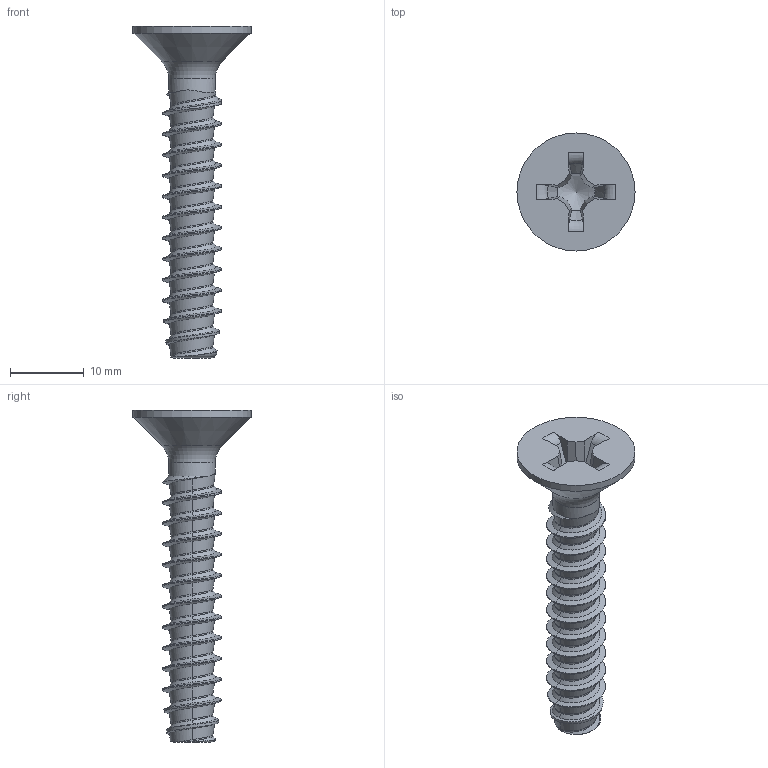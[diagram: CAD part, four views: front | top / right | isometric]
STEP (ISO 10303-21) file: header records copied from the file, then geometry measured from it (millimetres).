
FILE_DESCRIPTION(/* description */ (''),/* implementation_level */ '2;1');
FILE_NAME(/* name */ 'KN6041-STSplus-80x45-H4.step',/* time_stamp */ '2017-10-12T12:55:36+02:00',/* author */ (''),/* organization */ (''),/* preprocessor_version */ 'ST-DEVELOPER v16',/* originating_system */ 'SIEMENS PLM Software NX 10.0',/* authorisation */ '');
FILE_SCHEMA (('AUTOMOTIVE_DESIGN { 1 0 10303 214 3 1 1 1 }'));
Length unit declared in the file: millimetre
Products named in the file (1): KN6041-STSplus-80x45-H4
Bounding box: 16 x 16 x 45 mm (x, y, z)
Volume: 1812.9 mm3; surface area: 1734.9 mm2
Topology: 1 solids, 1 shells, 104 faces, 253 edges, 151 vertices
Faces by surface type: bspline 69, plane 18, cone 8, torus 6, cylinder 3
Full cylindrical faces by diameter (mm): 6.27 x1, 16 x1
Entity records: 7283 total; most frequent: CARTESIAN_POINT 5355, ORIENTED_EDGE 484, EDGE_CURVE 242, DIRECTION 206, VERTEX_POINT 147, B_SPLINE_CURVE_WITH_KNOTS 129, EDGE_LOOP 110, ADVANCED_FACE 104
